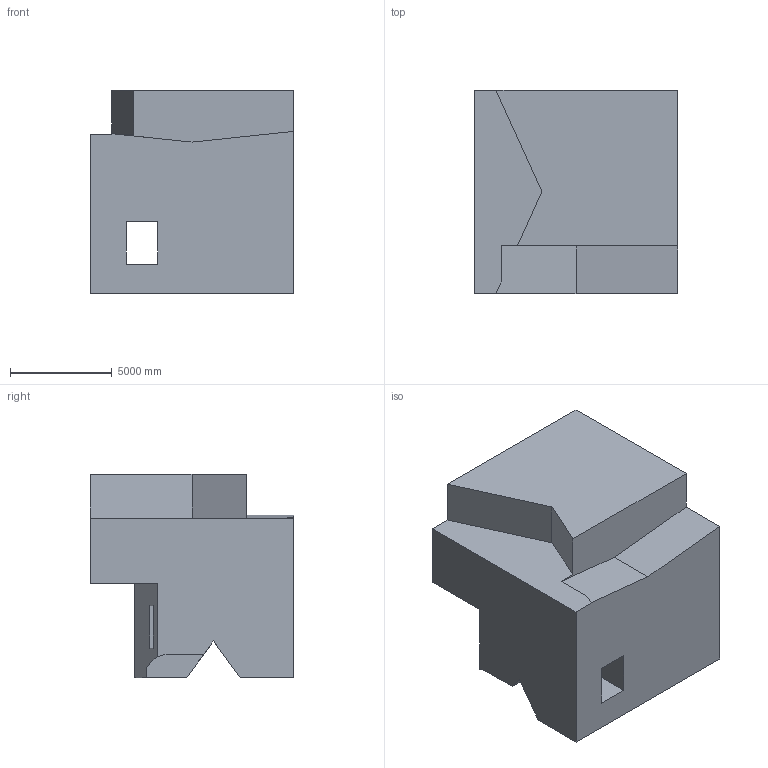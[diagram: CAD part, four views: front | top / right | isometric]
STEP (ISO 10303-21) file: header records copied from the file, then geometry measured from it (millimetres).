
FILE_DESCRIPTION (( 'STEP AP203' ), '1' );
FILE_NAME ('1564.STEP', '2022-08-26T10:26:24', ( 'user' ), ( '' ), 'SwSTEP 2.0', 'SolidWorks 2021', '' );
FILE_SCHEMA (( 'CONFIG_CONTROL_DESIGN' ));
Length unit declared in the file: centimetre
Products named in the file (1): 1564
Bounding box: 10000 x 10000 x 10000 mm (x, y, z)
Volume: 722647934350.5 mm3; surface area: 609866812 mm2
Topology: 1 solids, 1 shells, 26 faces, 78 edges, 52 vertices
Faces by surface type: plane 25, cylinder 1
Entity records: 949 total; most frequent: CARTESIAN_POINT 160, ORIENTED_EDGE 156, DIRECTION 133, EDGE_CURVE 78, VECTOR 75, LINE 75, VERTEX_POINT 52, AXIS2_PLACEMENT_3D 29
